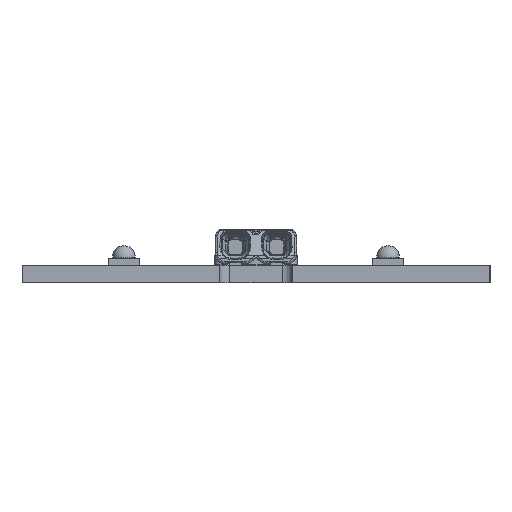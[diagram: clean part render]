
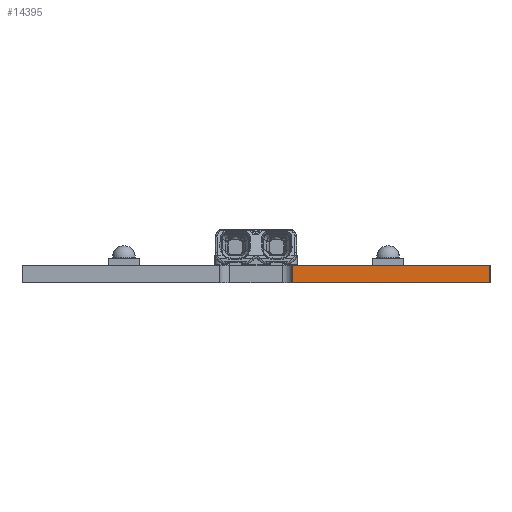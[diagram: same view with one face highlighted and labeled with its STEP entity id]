
A CAD part, left-side view. The second image highlights one B-rep face of the part: STEP entity #14395.
In plain terms, the highlighted planar face has unit normal (-1, 0, 0).
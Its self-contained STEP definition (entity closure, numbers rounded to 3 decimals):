
#618=DIRECTION('',(0.,1.,0.));
#619=VECTOR('',#618,19.);
#620=CARTESIAN_POINT('',(-73.,-22.5,0.));
#621=LINE('',#620,#619);
#826=DIRECTION('',(0.,0.,1.));
#827=VECTOR('',#826,1.65);
#828=CARTESIAN_POINT('',(-73.,-22.5,0.));
#829=LINE('',#828,#827);
#833=DIRECTION('',(0.,0.,-1.));
#834=VECTOR('',#833,1.65);
#835=CARTESIAN_POINT('',(-73.,-3.5,1.65));
#836=LINE('',#835,#834);
#840=DIRECTION('',(0.,1.,0.));
#841=VECTOR('',#840,19.);
#842=CARTESIAN_POINT('',(-73.,-22.5,1.65));
#843=LINE('',#842,#841);
#13432=CARTESIAN_POINT('',(-73.,-22.5,1.65));
#13433=CARTESIAN_POINT('',(-73.,-3.5,1.65));
#13434=VERTEX_POINT('',#13432);
#13435=VERTEX_POINT('',#13433);
#13436=CARTESIAN_POINT('',(-73.,-3.5,0.));
#13437=VERTEX_POINT('',#13436);
#13522=CARTESIAN_POINT('',(-73.,-22.5,0.));
#13523=VERTEX_POINT('',#13522);
#14383=CARTESIAN_POINT('',(-73.,-3.5,1.65));
#14384=DIRECTION('',(-1.,0.,0.));
#14385=DIRECTION('',(0.,0.,1.));
#14386=AXIS2_PLACEMENT_3D('',#14383,#14384,#14385);
#14387=PLANE('',#14386);
#14389=ORIENTED_EDGE('',*,*,#14388,.F.);
#14390=ORIENTED_EDGE('',*,*,#14284,.T.);
#14391=ORIENTED_EDGE('',*,*,#14368,.F.);
#14392=ORIENTED_EDGE('',*,*,#14000,.F.);
#14393=EDGE_LOOP('',(#14389,#14390,#14391,#14392));
#14394=FACE_OUTER_BOUND('',#14393,.F.);
#14000=EDGE_CURVE('',#13434,#13435,#843,.T.);
#14284=EDGE_CURVE('',#13523,#13437,#621,.T.);
#14368=EDGE_CURVE('',#13435,#13437,#836,.T.);
#14388=EDGE_CURVE('',#13523,#13434,#829,.T.);
#14395=ADVANCED_FACE('',(#14394),#14387,.T.);
